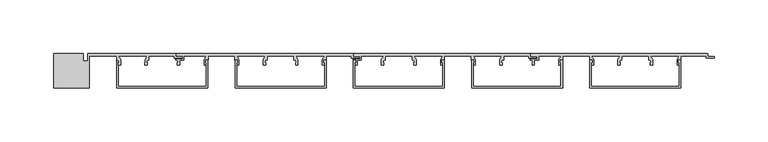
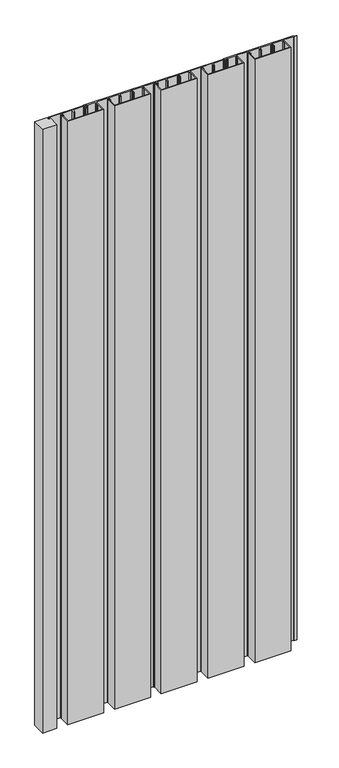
"""IFC4 building model written with IfcOpenShell, lengths in millimetres: proxy geometry, A_GEN_LINE_Main Base_Wide Cap_Corner Angle : A_GEN_LINE_Main Base_Wide Cap_Corner Angle."""

from ifc_helpers import new_model, si_unit, origin, origin_with_axes, place, context, project, spatial, polyline, outline, extrude, source, transform, mapped, element, save


def generic_models_edd7c389(model_context):
    return source(origin(), model_context, "Body", "SweptSolid", [
        extrude(outline(polyline([(9.6853961, 0.0), (9.6853961, -7.0005407), (14.0816796, -7.0005407), (14.0816796, 0.0), (95.7918793, 0.0), (95.7918793, -2.825696), (101.7918793, -2.825696), (101.7918793, -4.175696), (94.2735242, -4.175696), (94.2735242, -2.4), (70.7697169, -2.4), (70.7697169, -6.1021884), (69.6547434, -6.1021884), (68.0661776, -8.4994005), (69.3281115, -8.4994005), (69.3281115, -10.4818695), (67.1255855, -10.4818695), (67.1588687, -5.5238337), (69.2289465, -2.4), (42.3147271, -2.4), (44.3848049, -5.5238337), (44.4180882, -10.4818695), (42.2155621, -10.4818695), (42.2155621, -8.4994005), (43.477496, -8.4994005), (41.8889302, -6.1021884), (40.7739568, -6.1021884), (40.7739568, -2.4), (15.4816796, -2.4), (15.4816796, -31.9534606), (-17.7610639, -31.9534606), (-17.7610639, 0.0), (9.6853961, 0.0)])), origin_with_axes(), (0.0, 0.0, 1.0), 1500.0),
        extrude(outline(polyline([(480.9382824, -32.2007192), (480.9382824, -6.1), (483.0872893, -6.1), (483.0872893, -8.3419727), (482.3382824, -8.5826662), (482.3382824, -30.8007192), (564.1612968, -30.8007192), (564.1612968, -8.5826662), (563.4122899, -8.3419727), (563.4122899, -6.1), (565.5612968, -6.1), (565.5612968, -32.2007192), (480.9382824, -32.2007192)])), origin_with_axes(), (0.0, 0.0, 1.0), 1500.0),
        extrude(outline(polyline([(370.942966, -32.2007192), (370.942966, -6.1), (373.0919729, -6.1), (373.0919729, -8.3419727), (372.342966, -8.5826662), (372.342966, -30.8007192), (454.1659804, -30.8007192), (454.1659804, -8.5826662), (453.4169735, -8.3419727), (453.4169735, -6.1), (455.5659804, -6.1), (455.5659804, -32.2007192), (370.942966, -32.2007192)])), origin_with_axes(), (0.0, 0.0, 1.0), 1500.0),
        extrude(outline(polyline([(260.9476496, -32.2007192), (260.9476496, -6.1), (263.0966566, -6.1), (263.0966566, -8.3419727), (262.3476496, -8.5826662), (262.3476496, -30.8007192), (344.1706641, -30.8007192), (344.1706641, -8.5826662), (343.4216571, -8.3419727), (343.4216571, -6.1), (345.5706641, -6.1), (345.5706641, -32.2007192), (260.9476496, -32.2007192)])), origin_with_axes(), (0.0, 0.0, 1.0), 1500.0),
        extrude(outline(polyline([(150.9523332, -32.2007192), (150.9523332, -6.1), (153.1013402, -6.1), (153.1013402, -8.3419727), (152.3523332, -8.5826662), (152.3523332, -30.8007192), (234.1753477, -30.8007192), (234.1753477, -8.5826662), (233.4263407, -8.3419727), (233.4263407, -6.1), (235.5753477, -6.1), (235.5753477, -32.2007192), (150.9523332, -32.2007192)])), origin_with_axes(), (0.0, 0.0, 1.0), 1500.0),
        extrude(outline(polyline([(40.9570168, -32.2007192), (40.9570168, -6.1), (43.1060238, -6.1), (43.1060238, -8.3419727), (42.3570168, -8.5826662), (42.3570168, -30.8007192), (124.1800313, -30.8007192), (124.1800313, -8.5826662), (123.4310243, -8.3419727), (123.4310243, -6.1), (125.5800313, -6.1), (125.5800313, -32.2007192), (40.9570168, -32.2007192)])), origin_with_axes(), (0.0, 0.0, 1.0), 1500.0),
        extrude(outline(polyline([(426.1781195, 0.0), (590.7542283, 0.0), (590.7542283, -2.85), (596.7542283, -2.85), (596.7542283, -4.2), (589.2358732, -4.2), (589.2358732, -2.4), (565.7663057, -2.4), (565.7663057, -6.1021884), (564.6513323, -6.1021884), (563.0627665, -8.4994005), (564.3247004, -8.4994005), (564.3247004, -10.4818695), (562.1221743, -10.4818695), (562.1554576, -5.5238337), (564.2255354, -2.4), (537.3091004, -2.4), (539.4082215, -5.6343123), (539.4082215, -10.4818695), (537.2056955, -10.4818695), (537.2056955, -8.4994005), (538.4676294, -8.4994005), (536.8790636, -6.1021884), (535.7640901, -6.1021884), (535.7640901, -2.4), (510.7635908, -2.4), (510.7635908, -6.1021884), (509.6486173, -6.1021884), (508.0600515, -8.4994005), (509.3219854, -8.4994005), (509.3219854, -10.4818695), (507.1194594, -10.4818695), (507.1194594, -5.5740595), (509.2228204, -2.4), (482.308601, -2.4), (484.4077222, -5.6343123), (484.4077222, -10.4818695), (482.2051961, -10.4818695), (482.2051961, -8.4994005), (483.46713, -8.4994005), (481.8785642, -6.1021884), (480.7635908, -6.1021884), (480.7635908, -2.4), (455.7630914, -2.4), (455.7630914, -6.1021884), (454.6481179, -6.1021884), (453.0595521, -8.4994005), (454.321486, -8.4994005), (454.321486, -10.4818695), (452.11896, -10.4818695), (452.11896, -5.6343123), (454.2180811, -2.4), (433.3976722, -2.4), (433.3976722, -6.1), (429.4072228, -6.1), (429.4072228, -10.4818695), (427.2046967, -10.4818695), (427.2046967, -8.4994005), (428.4666306, -8.4994005), (426.8780648, -6.1021884), (425.7918793, -6.1021884), (425.7918793, -4.9), (432.1976722, -4.9), (432.1976722, -2.7), (426.1781195, -2.7), (426.1781195, 0.0)])), origin_with_axes(), (0.0, 0.0, 1.0), 1500.0),
        extrude(outline(polyline([(261.1781195, 0.0), (425.7542283, 0.0), (425.7542283, -2.85), (431.7542283, -2.85), (431.7542283, -4.2), (424.2358732, -4.2), (424.2358732, -2.4), (400.7663057, -2.4), (400.7663057, -6.1021884), (399.6513323, -6.1021884), (398.0627665, -8.4994005), (399.3247004, -8.4994005), (399.3247004, -10.4818695), (397.1221743, -10.4818695), (397.1554576, -5.5238337), (399.2255354, -2.4), (372.3091004, -2.4), (374.4082215, -5.6343123), (374.4082215, -10.4818695), (372.2056955, -10.4818695), (372.2056955, -8.4994005), (373.4676294, -8.4994005), (371.8790636, -6.1021884), (370.7640901, -6.1021884), (370.7640901, -2.4), (345.7635908, -2.4), (345.7635908, -6.1021884), (344.6486173, -6.1021884), (343.0600515, -8.4994005), (344.3219854, -8.4994005), (344.3219854, -10.4818695), (342.1194594, -10.4818695), (342.1194594, -5.5740595), (344.2228204, -2.4), (317.308601, -2.4), (319.4077222, -5.6343123), (319.4077222, -10.4818695), (317.2051961, -10.4818695), (317.2051961, -8.4994005), (318.46713, -8.4994005), (316.8785642, -6.1021884), (315.7635908, -6.1021884), (315.7635908, -2.4), (290.7630914, -2.4), (290.7630914, -6.1021884), (289.6481179, -6.1021884), (288.0595521, -8.4994005), (289.321486, -8.4994005), (289.321486, -10.4818695), (287.11896, -10.4818695), (287.11896, -5.6343123), (289.2180811, -2.4), (268.3976722, -2.4), (268.3976722, -6.1), (264.4072228, -6.1), (264.4072228, -10.4818695), (262.2046967, -10.4818695), (262.2046967, -8.4994005), (263.4666306, -8.4994005), (261.8780648, -6.1021884), (260.7918793, -6.1021884), (260.7918793, -4.9), (267.1976722, -4.9), (267.1976722, -2.7), (261.1781195, -2.7), (261.1781195, 0.0)])), origin_with_axes(), (0.0, 0.0, 1.0), 1500.0),
        extrude(outline(polyline([(96.1781195, 0.0), (260.7542283, 0.0), (260.7542283, -2.85), (266.7542283, -2.85), (266.7542283, -4.2), (259.2358732, -4.2), (259.2358732, -2.4), (235.7663057, -2.4), (235.7663057, -6.1021884), (234.6513323, -6.1021884), (233.0627665, -8.4994005), (234.3247004, -8.4994005), (234.3247004, -10.4818695), (232.1221743, -10.4818695), (232.1554576, -5.5238337), (234.2255354, -2.4), (207.3091004, -2.4), (209.4082215, -5.6343123), (209.4082215, -10.4818695), (207.2056955, -10.4818695), (207.2056955, -8.4994005), (208.4676294, -8.4994005), (206.8790636, -6.1021884), (205.7640901, -6.1021884), (205.7640901, -2.4), (180.7635908, -2.4), (180.7635908, -6.1021884), (179.6486173, -6.1021884), (178.0600515, -8.4994005), (179.3219854, -8.4994005), (179.3219854, -10.4818695), (177.1194594, -10.4818695), (177.1194594, -5.5740595), (179.2228204, -2.4), (152.308601, -2.4), (154.4077222, -5.6343123), (154.4077222, -10.4818695), (152.2051961, -10.4818695), (152.2051961, -8.4994005), (153.46713, -8.4994005), (151.8785642, -6.1021884), (150.7635908, -6.1021884), (150.7635908, -2.4), (125.7630914, -2.4), (125.7630914, -6.1021884), (124.6481179, -6.1021884), (123.0595521, -8.4994005), (124.321486, -8.4994005), (124.321486, -10.4818695), (122.11896, -10.4818695), (122.11896, -5.6343123), (124.2180811, -2.4), (103.3976722, -2.4), (103.3976722, -6.1), (99.4072228, -6.1), (99.4072228, -10.4818695), (97.2046967, -10.4818695), (97.2046967, -8.4994005), (98.4666306, -8.4994005), (96.8780648, -6.1021884), (95.7918793, -6.1021884), (95.7918793, -4.9), (102.1976722, -4.9), (102.1976722, -2.7), (96.1781195, -2.7), (96.1781195, 0.0)])), origin_with_axes(), (0.0, 0.0, 1.0), 1500.0),
    ])


if __name__ == "__main__":
    model = new_model("IFC4")
    model_context = context("Model", 3, world=origin())
    ifc_project = project(units=[si_unit("LENGTHUNIT", "METRE", prefix="MILLI")], contexts=[model_context])
    site = spatial("IfcSite", under=ifc_project)
    building = spatial("IfcBuilding", under=site)
    placement = place(None, origin())
    generic_models_shape = generic_models_edd7c389(model_context)
    element("IfcBuildingElementProxy", 1, Name="A_GEN_LINE_Main Base_Wide Cap_Corner Angle : A_GEN_LINE_Main Base_Wide Cap_Corner Angle", ObjectType="A_GEN_LINE_Main Base_Wide Cap_Corner Angle : A_GEN_LINE_Main Base_Wide Cap_Corner Angle", at=placement, inside=building, context=model_context, shape_type="MappedRepresentation", body=[
        mapped(generic_models_shape, transform((0.0, 0.0, 0.0), x_axis=(1.0, 0.0, 0.0), y_axis=(0.0, 1.0, 0.0), z_axis=(0.0, 0.0, 1.0))),
    ])
    save(model, "model.ifc")
